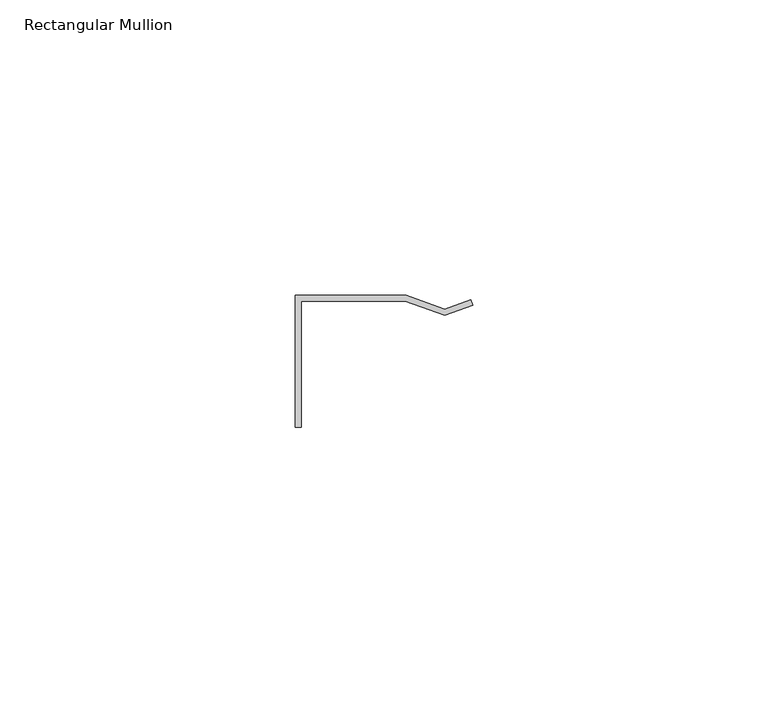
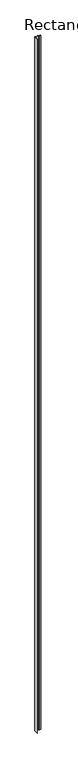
"""IFC4 building model written with IfcOpenShell, lengths in millimetres: member geometry, Rectangular Mullion : Stratco_Hiland_Interlock_Concealed Fix 15mm Gap_Male."""

from ifc_helpers import new_model, si_unit, frame, origin, place, context, project, spatial, polyline, outline, extrude, source, transform, mapped, element, save


def rectangular_mullion_0b61018c(model_context):
    return source(origin(), model_context, "Body", "SweptSolid", [
        extrude(outline(polyline([(-29.0971974, -3.6), (-29.0971974, -25.0), (-30.0971974, -25.0), (-30.0971974, -2.6), (-11.2827248, -2.6), (-4.774873, -4.9686643), (-0.3420201, -3.3552379), (0.0, -4.2949305), (-4.774873, -6.0328421), (-11.4590518, -3.6), (-29.0971974, -3.6)])), frame((0.0, 0.0, -4000.0), z_axis=(0.0, 0.0, 1.0), x_axis=(1.0, 0.0, 0.0)), (0.0, 0.0, 1.0), 4000.0),
    ])


if __name__ == "__main__":
    model = new_model("IFC4")
    model_context = context("Model", 3, world=origin())
    ifc_project = project(units=[si_unit("LENGTHUNIT", "METRE", prefix="MILLI")], contexts=[model_context])
    site = spatial("IfcSite", under=ifc_project)
    building = spatial("IfcBuilding", under=site)
    placement = place(None, origin())
    rectangular_mullion_shape = rectangular_mullion_0b61018c(model_context)
    element("IfcMember", 1, ObjectType="Rectangular Mullion : Stratco_Hiland_Interlock_Concealed Fix 15mm Gap_Male", at=placement, inside=building, context=model_context, shape_type="MappedRepresentation", body=[
        mapped(rectangular_mullion_shape, transform((0.0, 0.0, 0.0), x_axis=(1.0, 0.0, 0.0), y_axis=(0.0, 1.0, 0.0), z_axis=(0.0, 0.0, 1.0))),
    ])
    save(model, "model.ifc")
